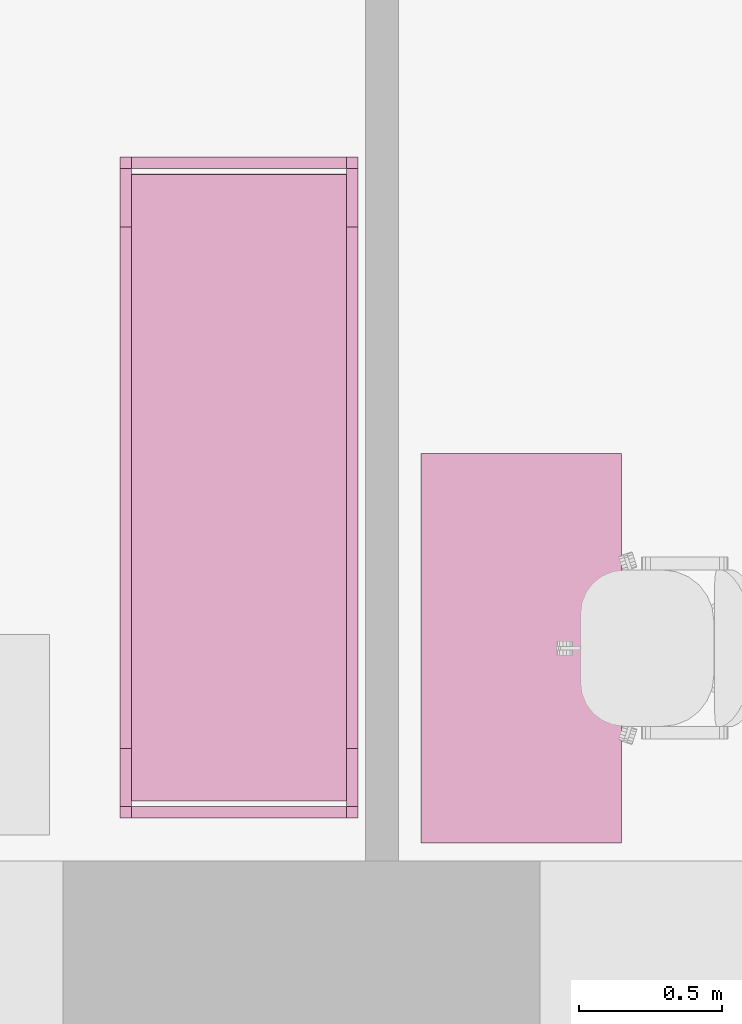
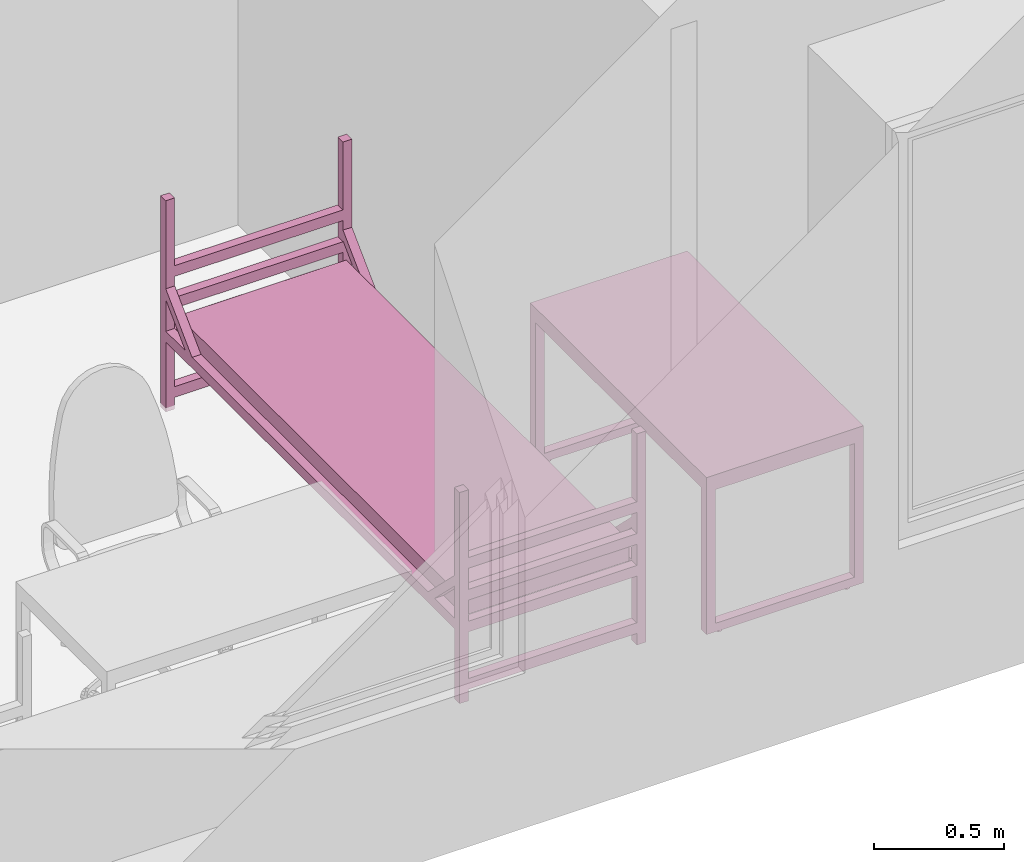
# One storey, part 34 of 48: 2 furnishings.
"""IFC2X3 building model written with IfcOpenShell, lengths in millimetres."""

from ifc_helpers import new_model, entity, si_unit, converted_unit, derived_unit, direction, frame, frame_2d, origin, place, context, subcontext, project, spatial, polyline, circle_curve, parameter, trimmed, segment, composite_curve, rectangle, outline, extrude, faceted_brep, source, transform, mapped, material, material_list, type_object, type_shapes, element, save


model = new_model("IFC2X3")

# Units and contexts
model_context = context("Model", 3, precision=0.01, world=origin(), true_north=direction((6.12303176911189e-17, 1.0)))
body_context = subcontext(model_context, "Body", "Model", "MODEL_VIEW")
ifc_project = project(units=[si_unit("LENGTHUNIT", "METRE", prefix="MILLI"), si_unit("AREAUNIT", "SQUARE_METRE"), si_unit("VOLUMEUNIT", "CUBIC_METRE"), converted_unit("PLANEANGLEUNIT", "DEGREE", entity("IfcRatioMeasure", 0.0174532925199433), si_unit("PLANEANGLEUNIT", "RADIAN"), dimensions=[0, 0, 0, 0, 0, 0, 0]), si_unit("MASSUNIT", "GRAM", prefix="KILO"), derived_unit("MASSDENSITYUNIT", [(si_unit("MASSUNIT", "GRAM", prefix="KILO"), 1), (si_unit("LENGTHUNIT", "METRE"), -3)]), si_unit("TIMEUNIT", "SECOND"), si_unit("FREQUENCYUNIT", "HERTZ"), si_unit("THERMODYNAMICTEMPERATUREUNIT", "DEGREE_CELSIUS"), derived_unit("THERMALTRANSMITTANCEUNIT", [(si_unit("MASSUNIT", "GRAM", prefix="KILO"), 1), (si_unit("THERMODYNAMICTEMPERATUREUNIT", "KELVIN"), -1), (si_unit("TIMEUNIT", "SECOND"), -3)]), derived_unit("VOLUMETRICFLOWRATEUNIT", [(si_unit("LENGTHUNIT", "METRE"), 3), (si_unit("TIMEUNIT", "SECOND"), -1)]), si_unit("ELECTRICCURRENTUNIT", "AMPERE"), si_unit("ELECTRICVOLTAGEUNIT", "VOLT"), si_unit("POWERUNIT", "WATT"), si_unit("FORCEUNIT", "NEWTON", prefix="KILO"), si_unit("ILLUMINANCEUNIT", "LUX"), si_unit("LUMINOUSFLUXUNIT", "LUMEN"), si_unit("LUMINOUSINTENSITYUNIT", "CANDELA"), derived_unit("USERDEFINED", [(si_unit("MASSUNIT", "GRAM", prefix="KILO"), -1), (si_unit("LENGTHUNIT", "METRE"), -2), (si_unit("TIMEUNIT", "SECOND"), 3), (si_unit("LUMINOUSFLUXUNIT", "LUMEN"), 1)]), derived_unit("LINEARVELOCITYUNIT", [(si_unit("LENGTHUNIT", "METRE"), 1), (si_unit("TIMEUNIT", "SECOND"), -1)]), si_unit("PRESSUREUNIT", "PASCAL"), derived_unit("USERDEFINED", [(si_unit("LENGTHUNIT", "METRE"), -2), (si_unit("MASSUNIT", "GRAM", prefix="KILO"), 1), (si_unit("TIMEUNIT", "SECOND"), -2)]), derived_unit("LINEARFORCEUNIT", [(si_unit("MASSUNIT", "GRAM", prefix="KILO"), 1), (si_unit("LENGTHUNIT", "METRE"), 1), (si_unit("TIMEUNIT", "SECOND"), -2), (si_unit("LENGTHUNIT", "METRE"), -1)]), derived_unit("PLANARFORCEUNIT", [(si_unit("MASSUNIT", "GRAM", prefix="KILO"), 1), (si_unit("LENGTHUNIT", "METRE"), 1), (si_unit("TIMEUNIT", "SECOND"), -2), (si_unit("LENGTHUNIT", "METRE"), -2)])], contexts=[model_context])

# Site, building, storey, space
site_placement = place(None, origin())
site = spatial("IfcSite", under=ifc_project, at=site_placement, Name="Default", CompositionType="ELEMENT")
building_placement = place(site_placement, origin())
building = spatial("IfcBuilding", under=site, at=building_placement, Name="SMA ARH", CompositionType="ELEMENT")
storey_placement = place(building_placement, frame((0.0, 0.0, 6600.0)))
storey = spatial("IfcBuildingStorey", under=building, at=storey_placement, Name="3 Korrus", CompositionType="ELEMENT", Elevation=6599.99999999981)
space_1_placement = place(storey_placement, origin())
space_1 = spatial("IfcSpace", under=storey, at=space_1_placement, Name="3-7", CompositionType="ELEMENT", InteriorOrExteriorSpace="INTERNAL")

# Furnishing
ifc_material_1 = material(Name="Madrats")
furniture_type_1 = type_object("IfcFurnitureType", Name="Kasarmu voodi ühekordne 2308x830:Kasarmu voodi ühekordne 2308x830", material=ifc_material_1)
shared_shape_1 = source(origin(), body_context, "Body", "SweptSolid", [
    extrude(rectangle(XDim=39.9999999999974, YDim=750.000000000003, at=frame_2d((-1.35003119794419e-13, -2.8421709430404e-14), x_axis=(1.0, 0.0))), frame((1.68638457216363, -1226.7969571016, 55.0), z_axis=(0.0, 0.0, 1.0), x_axis=(0.0, -1.0, 0.0)), (0.0, 0.0, 1.0), 49.9999999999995),
    extrude(rectangle(XDim=39.9999999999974, YDim=750.000000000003, at=frame_2d((-1.35003119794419e-13, -2.8421709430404e-14), x_axis=(1.0, 0.0))), frame((1.68638457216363, -1226.7969571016, 325.0), z_axis=(0.0, 0.0, 1.0), x_axis=(0.0, -1.0, 0.0)), (0.0, 0.0, 1.0), 49.9999999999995),
    extrude(rectangle(XDim=39.9999999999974, YDim=750.000000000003, at=frame_2d((-1.35003119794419e-13, -2.8421709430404e-14), x_axis=(1.0, 0.0))), frame((1.68638457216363, -1226.7969571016, 475.0), z_axis=(0.0, 0.0, 1.0), x_axis=(0.0, -1.0, 0.0)), (0.0, 0.0, 1.0), 49.9999999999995),
    extrude(rectangle(XDim=39.9999999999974, YDim=750.000000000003, at=frame_2d((-1.35003119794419e-13, -2.8421709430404e-14), x_axis=(1.0, 0.0))), frame((1.68638457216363, -1226.7969571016, 625.0), z_axis=(0.0, 0.0, 1.0), x_axis=(0.0, -1.0, 0.0)), (0.0, 0.0, 1.0), 50.0000000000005),
    extrude(rectangle(XDim=39.9999999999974, YDim=750.000000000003, at=frame_2d((1.35003119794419e-13, -2.8421709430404e-14), x_axis=(1.0, 0.0))), frame((1.68638457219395, 1041.2030428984, 55.0), z_axis=(0.0, 0.0, 1.0), x_axis=(0.0, -1.0, 0.0)), (0.0, 0.0, 1.0), 50.0000000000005),
    extrude(rectangle(XDim=39.9999999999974, YDim=750.000000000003, at=frame_2d((1.35003119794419e-13, -2.8421709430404e-14), x_axis=(1.0, 0.0))), frame((1.68638457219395, 1041.2030428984, 325.0), z_axis=(0.0, 0.0, 1.0), x_axis=(0.0, -1.0, 0.0)), (0.0, 0.0, 1.0), 50.0000000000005),
    extrude(rectangle(XDim=39.9999999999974, YDim=750.000000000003, at=frame_2d((1.35003119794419e-13, -2.8421709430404e-14), x_axis=(1.0, 0.0))), frame((1.68638457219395, 1041.2030428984, 475.0), z_axis=(0.0, 0.0, 1.0), x_axis=(0.0, -1.0, 0.0)), (0.0, 0.0, 1.0), 50.0000000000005),
    extrude(rectangle(XDim=39.9999999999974, YDim=750.000000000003, at=frame_2d((1.35003119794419e-13, -2.8421709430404e-14), x_axis=(1.0, 0.0))), frame((1.68638457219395, 1041.2030428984, 625.0), z_axis=(0.0, 0.0, 1.0), x_axis=(0.0, -1.0, 0.0)), (0.0, 0.0, 1.0), 49.9999999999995),
    extrude(outline(composite_curve([segment(trimmed(circle_curve(frame_2d((1085.0, -40.0), x_axis=(1.0, 0.0)), 10.0), [parameter(270.0)], [parameter(0.0)], True, "PARAMETER"), True, "CONTINUOUS"), segment(polyline([(1095.0, -40.0), (1095.0, 40.0)]), True, "CONTINUOUS"), segment(trimmed(circle_curve(frame_2d((1085.0, 40.0), x_axis=(1.0, 0.0)), 10.0), [parameter(0.0)], [parameter(90.0000000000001)], True, "PARAMETER"), True, "CONTINUOUS"), segment(polyline([(1085.0, 50.0), (-1085.0, 50.0)]), True, "CONTINUOUS"), segment(trimmed(circle_curve(frame_2d((-1085.0, 40.0), x_axis=(1.0, 0.0)), 10.0), [parameter(90.0000000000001)], [parameter(180.0)], True, "PARAMETER"), True, "CONTINUOUS"), segment(polyline([(-1095.0, 40.0), (-1095.0, -40.0)]), True, "CONTINUOUS"), segment(trimmed(circle_curve(frame_2d((-1085.0, -40.0), x_axis=(1.0, 0.0)), 10.0), [parameter(180.0)], [parameter(270.0)], True, "PARAMETER"), True, "CONTINUOUS"), segment(polyline([(-1085.0, -50.0), (1085.0, -50.0)]), True, "CONTINUOUS")], self_intersect=False)), frame((-373.313615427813, -92.7969571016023, 405.0), z_axis=(1.0, 0.0, 0.0), x_axis=(0.0, -1.0, 0.0)), (0.0, 0.0, 1.0), 750.000000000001),
    extrude(outline(polyline([(-1114.0, -100.0), (1114.0, -100.0), (1114.0, -50.0), (961.59199141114, -50.0), (1114.0, 100.0), (1114.0, 150.0), (910.789321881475, -50.0), (-910.789321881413, -50.0), (-1114.0, 150.0), (-1114.0, 100.0), (-961.591991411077, -50.0), (-1114.0, -50.0), (-1114.0, -100.0)])), frame((-413.313615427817, -92.7969571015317, 430.0), z_axis=(1.0, 0.0, 0.0), x_axis=(0.0, 1.0, 0.0)), (0.0, 0.0, 1.0), 39.9999999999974),
    extrude(outline(polyline([(-1114.0, -100.0), (1114.0, -100.0), (1114.0, -50.0), (961.591991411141, -50.0), (1114.0, 100.0), (1114.0, 150.0), (910.789321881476, -50.0), (-910.789321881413, -50.0), (-1114.0, 150.0), (-1114.0, 100.0), (-961.591991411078, -50.0), (-1114.0, -50.0), (-1114.0, -100.0)])), frame((376.686384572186, -92.796957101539, 430.0), z_axis=(1.0, 0.0, 0.0), x_axis=(0.0, 1.0, 0.0)), (0.0, 0.0, 1.0), 39.9999999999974),
    extrude(rectangle(XDim=39.9999999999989, YDim=39.9999999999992, at=frame_2d((-6.75015598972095e-14, 0.0), x_axis=(1.0, 0.0))), frame((396.686384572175, -1226.79695710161, 0.0), z_axis=(0.0, 0.0, 1.0), x_axis=(0.0, 1.0, 0.0)), (0.0, 0.0, 1.0), 995.0),
    extrude(rectangle(XDim=39.9999999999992, YDim=39.9999999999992, at=frame_2d((-1.35003119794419e-13, 0.0), x_axis=(1.0, 0.0))), frame((396.686384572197, 1041.20304289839, 0.0), z_axis=(0.0, 0.0, 1.0), x_axis=(0.0, 1.0, 0.0)), (0.0, 0.0, 1.0), 995.0),
    extrude(rectangle(XDim=40.0000000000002, YDim=39.9999999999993, at=frame_2d((-1.35003119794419e-13, 0.0), x_axis=(1.0, 0.0))), frame((-393.313615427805, 1041.2030428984, 0.0), z_axis=(0.0, 0.0, 1.0), x_axis=(0.0, 1.0, 0.0)), (0.0, 0.0, 1.0), 995.0),
    extrude(rectangle(XDim=39.9999999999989, YDim=39.9999999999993, at=frame_2d((-6.75015598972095e-14, 0.0), x_axis=(1.0, 0.0))), frame((-393.313615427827, -1226.7969571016, 0.0), z_axis=(0.0, 0.0, 1.0), x_axis=(0.0, 1.0, 0.0)), (0.0, 0.0, 1.0), 995.0),
])
type_shapes(furniture_type_1, [shared_shape_1])
furnishing_1_placement = place(space_1_placement, frame((26577.3136154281, 1396.79695710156, 0.0)))
element("IfcFurnishingElement", 1, at=furnishing_1_placement, inside=space_1, type_object=furniture_type_1, material=ifc_material_1, Name="Kasarmu voodi ühekordne 2308x830:Kasarmu voodi ühekordne 2308x830", ObjectType="Kasarmu voodi ühekordne 2308x830:Kasarmu voodi ühekordne 2308x830", context=body_context, shape_type="MappedRepresentation", body=[
    mapped(shared_shape_1, transform((0.0, 0.0, 0.0), scale=1.0)),
])

# Space
space_2_placement = place(storey_placement, origin())
space_2 = spatial("IfcSpace", under=storey, at=space_2_placement, Name="3-6", CompositionType="ELEMENT", InteriorOrExteriorSpace="INTERNAL")

# Furnishing
ifc_material_2 = material(Name="<Unnamed>")
ifc_material_list = material_list([ifc_material_2, ifc_material_2])
furniture_type_2 = type_object("IfcFurnitureType", Name="kirjutuslaud 1360x700mm:kirjutuslaud 1360x700mm", material=ifc_material_list)
shared_shape_2 = source(origin(), body_context, "Body", "Brep", [
    faceted_brep([(680.0, -350.0, 720.0), (680.0, 350.0, 720.0), (680.0, 350.0, 750.0), (680.0, -350.0, 750.0), (-680.0, -350.0, 720.0), (-680.0, -350.0, 750.0), (-680.0, 350.0, 750.0), (-680.0, 350.0, 720.0)], [[[0, 1, 2, 3]], [[4, 5, 6, 7]], [[1, 0, 4, 7]], [[2, 1, 7, 6]], [[3, 2, 6, 5]], [[0, 3, 5, 4]]]),
    faceted_brep([(-640.0, -310.0, 680.0), (-640.0, 310.0, 680.0), (-640.0, 310.0, 720.0), (-640.0, -310.0, 720.0), (-680.0, -350.0, 720.0), (-680.0, 350.0, 720.0), (-680.0, 350.0, 10.0), (-680.0, -350.0, 10.0), (-680.0, 310.0, 680.0), (-680.0, -310.0, 680.0), (-680.0, -310.0, 50.0), (-680.0, 310.0, 50.0), (-640.0, -350.0, 10.0), (-640.0, -350.0, 680.0), (640.0, -350.0, 680.0), (640.0, -350.0, 10.0), (680.0, -350.0, 10.0), (680.0, -350.0, 720.0), (-640.0, 350.0, 10.0), (680.0, 350.0, 720.0), (680.0, 350.0, 10.0), (640.0, 350.0, 10.0), (640.0, 350.0, 680.0), (-640.0, 350.0, 680.0), (640.0, 310.0, 720.0), (640.0, -310.0, 720.0), (-640.0, 310.0, 50.0), (-640.0, -310.0, 50.0), (640.0, -310.0, 680.0), (640.0, 310.0, 680.0), (680.0, 310.0, 680.0), (680.0, 310.0, 50.0), (680.0, -310.0, 50.0), (680.0, -310.0, 680.0), (640.0, -310.0, 50.0), (640.0, 310.0, 50.0)], [[[0, 1, 2, 3]], [[4, 5, 6, 7], [8, 9, 10, 11]], [[4, 7, 12, 13, 14, 15, 16, 17]], [[18, 12, 7, 6]], [[6, 5, 19, 20, 21, 22, 23, 18]], [[19, 5, 4, 17], [2, 24, 25, 3]], [[26, 1, 8, 11]], [[27, 26, 11, 10]], [[0, 27, 10, 9]], [[1, 0, 9, 8]], [[14, 13, 0, 28]], [[24, 2, 1, 29]], [[3, 25, 28, 0]], [[17, 16, 20, 19], [30, 31, 32, 33]], [[21, 15, 14, 28, 34, 35, 29, 22]], [[20, 16, 15, 21]], [[31, 30, 29, 35]], [[32, 31, 35, 34]], [[33, 32, 34, 28]], [[30, 33, 28, 29]], [[29, 28, 25, 24]], [[29, 1, 23, 22]], [[12, 18, 23, 1, 26, 27, 0, 13]]]),
    faceted_brep([(-663.729456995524, -270.466136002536, 0.0), (-659.847171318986, -269.955023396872, 0.0), (-655.964885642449, -270.466136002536, 0.0), (-652.347171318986, -271.964642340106, 0.0), (-649.240569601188, -274.348421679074, 0.0), (-646.85679026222, -277.455023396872, 0.0), (-645.35828392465, -281.072737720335, 0.0), (-644.847171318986, -284.955023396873, 0.0), (-645.35828392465, -288.83730907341, 0.0), (-646.85679026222, -292.455023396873, 0.0), (-649.240569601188, -295.561625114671, 0.0), (-652.347171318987, -297.945404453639, 0.0), (-655.964885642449, -299.443910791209, 0.0), (-659.847171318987, -299.955023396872, 0.0), (-663.729456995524, -299.443910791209, 0.0), (-667.347171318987, -297.945404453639, 0.0), (-670.453773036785, -295.561625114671, 0.0), (-672.837552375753, -292.455023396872, 0.0), (-674.336058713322, -288.83730907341, 0.0), (-674.847171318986, -284.955023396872, 0.0), (-674.336058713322, -281.072737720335, 0.0), (-672.837552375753, -277.455023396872, 0.0), (-670.453773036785, -274.348421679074, 0.0), (-667.347171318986, -271.964642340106, 0.0), (-655.964885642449, -299.443910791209, 10.0), (-652.347171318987, -297.945404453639, 10.0), (-649.240569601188, -295.561625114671, 10.0), (-646.85679026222, -292.455023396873, 10.0), (-645.35828392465, -288.83730907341, 10.0), (-644.847171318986, -284.955023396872, 10.0), (-645.35828392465, -281.072737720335, 10.0), (-646.85679026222, -277.455023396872, 10.0), (-649.240569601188, -274.348421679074, 10.0), (-652.347171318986, -271.964642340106, 10.0), (-655.964885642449, -270.466136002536, 10.0), (-659.847171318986, -269.955023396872, 10.0), (-663.729456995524, -270.466136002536, 10.0), (-667.347171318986, -271.964642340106, 10.0), (-670.453773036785, -274.348421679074, 10.0), (-672.837552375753, -277.455023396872, 10.0), (-674.336058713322, -281.072737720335, 10.0), (-674.847171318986, -284.955023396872, 10.0), (-674.336058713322, -288.83730907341, 10.0), (-672.837552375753, -292.455023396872, 10.0), (-670.453773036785, -295.561625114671, 10.0), (-667.347171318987, -297.945404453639, 10.0), (-663.729456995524, -299.443910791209, 10.0), (-659.847171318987, -299.955023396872, 10.0)], [[[0, 1, 2, 3, 4, 5, 6, 7, 8, 9, 10, 11, 12, 13, 14, 15, 16, 17, 18, 19, 20, 21, 22, 23]], [[24, 25, 26, 27, 28, 29, 30, 31, 32, 33, 34, 35, 36, 37, 38, 39, 40, 41, 42, 43, 44, 45, 46, 47]], [[18, 42, 41, 19]], [[17, 43, 42, 18]], [[45, 44, 16, 15]], [[17, 16, 44, 43]], [[46, 45, 15, 14]], [[47, 46, 14, 13]], [[12, 24, 47, 13]], [[11, 25, 24, 12]], [[27, 26, 10, 9]], [[11, 10, 26, 25]], [[28, 27, 9, 8]], [[29, 28, 8, 7]], [[6, 30, 29, 7]], [[5, 31, 30, 6]], [[33, 32, 4, 3]], [[5, 4, 32, 31]], [[34, 33, 3, 2]], [[35, 34, 2, 1]], [[0, 36, 35, 1]], [[23, 37, 36, 0]], [[39, 38, 22, 21]], [[23, 22, 38, 37]], [[40, 39, 21, 20]], [[41, 40, 20, 19]]]),
    faceted_brep([(-655.964885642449, 270.466136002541, 10.0), (-652.347171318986, 271.964642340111, 10.0), (-649.240569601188, 274.348421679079, 10.0), (-646.85679026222, 277.455023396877, 10.0), (-645.35828392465, 281.07273772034, 10.0), (-644.847171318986, 284.955023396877, 10.0), (-645.35828392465, 288.837309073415, 10.0), (-646.85679026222, 292.455023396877, 10.0), (-649.240569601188, 295.561625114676, 10.0), (-652.347171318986, 297.945404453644, 10.0), (-655.964885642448, 299.443910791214, 10.0), (-659.847171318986, 299.955023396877, 10.0), (-663.729456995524, 299.443910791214, 10.0), (-667.347171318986, 297.945404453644, 10.0), (-670.453773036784, 295.561625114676, 10.0), (-672.837552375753, 292.455023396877, 10.0), (-674.336058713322, 288.837309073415, 10.0), (-674.847171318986, 284.955023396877, 10.0), (-674.336058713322, 281.07273772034, 10.0), (-672.837552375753, 277.455023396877, 10.0), (-670.453773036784, 274.348421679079, 10.0), (-667.347171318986, 271.964642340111, 10.0), (-663.729456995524, 270.466136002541, 10.0), (-659.847171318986, 269.955023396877, 10.0), (-655.964885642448, 299.443910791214, 0.0), (-652.347171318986, 297.945404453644, 0.0), (-649.240569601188, 295.561625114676, 0.0), (-646.85679026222, 292.455023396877, 0.0), (-645.35828392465, 288.837309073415, 0.0), (-644.847171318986, 284.955023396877, 0.0), (-645.35828392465, 281.07273772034, 0.0), (-646.85679026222, 277.455023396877, 0.0), (-649.240569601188, 274.348421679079, 0.0), (-652.347171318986, 271.964642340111, 0.0), (-655.964885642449, 270.466136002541, 0.0), (-659.847171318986, 269.955023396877, 0.0), (-663.729456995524, 270.466136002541, 0.0), (-667.347171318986, 271.964642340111, 0.0), (-670.453773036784, 274.348421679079, 0.0), (-672.837552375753, 277.455023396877, 0.0), (-674.336058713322, 281.07273772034, 0.0), (-674.847171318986, 284.955023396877, 0.0), (-674.336058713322, 288.837309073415, 0.0), (-672.837552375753, 292.455023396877, 0.0), (-670.453773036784, 295.561625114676, 0.0), (-667.347171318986, 297.945404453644, 0.0), (-663.729456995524, 299.443910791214, 0.0), (-659.847171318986, 299.955023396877, 0.0)], [[[0, 1, 2, 3, 4, 5, 6, 7, 8, 9, 10, 11, 12, 13, 14, 15, 16, 17, 18, 19, 20, 21, 22, 23]], [[24, 25, 26, 27, 28, 29, 30, 31, 32, 33, 34, 35, 36, 37, 38, 39, 40, 41, 42, 43, 44, 45, 46, 47]], [[40, 18, 17, 41]], [[39, 19, 18, 40]], [[21, 20, 38, 37]], [[39, 38, 20, 19]], [[22, 21, 37, 36]], [[23, 22, 36, 35]], [[34, 0, 23, 35]], [[33, 1, 0, 34]], [[3, 2, 32, 31]], [[33, 32, 2, 1]], [[4, 3, 31, 30]], [[5, 4, 30, 29]], [[28, 6, 5, 29]], [[27, 7, 6, 28]], [[9, 8, 26, 25]], [[27, 26, 8, 7]], [[10, 9, 25, 24]], [[11, 10, 24, 47]], [[46, 12, 11, 47]], [[45, 13, 12, 46]], [[15, 14, 44, 43]], [[45, 44, 14, 13]], [[16, 15, 43, 42]], [[17, 16, 42, 41]]]),
    faceted_brep([(656.270543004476, -270.466136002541, 0.0), (660.152828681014, -269.955023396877, 0.0), (664.035114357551, -270.466136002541, 0.0), (667.652828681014, -271.96464234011, 0.0), (670.759430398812, -274.348421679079, 0.0), (673.14320973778, -277.455023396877, 0.0), (674.64171607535, -281.072737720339, 0.0), (675.152828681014, -284.955023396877, 0.0), (674.64171607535, -288.837309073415, 0.0), (673.14320973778, -292.455023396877, 0.0), (670.759430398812, -295.561625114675, 0.0), (667.652828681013, -297.945404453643, 0.0), (664.035114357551, -299.443910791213, 0.0), (660.152828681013, -299.955023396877, 0.0), (656.270543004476, -299.443910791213, 0.0), (652.652828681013, -297.945404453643, 0.0), (649.546226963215, -295.561625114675, 0.0), (647.162447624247, -292.455023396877, 0.0), (645.663941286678, -288.837309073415, 0.0), (645.152828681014, -284.955023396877, 0.0), (645.663941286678, -281.072737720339, 0.0), (647.162447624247, -277.455023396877, 0.0), (649.546226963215, -274.348421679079, 0.0), (652.652828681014, -271.96464234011, 0.0), (664.035114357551, -299.443910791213, 10.0), (667.652828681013, -297.945404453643, 10.0), (670.759430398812, -295.561625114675, 10.0), (673.14320973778, -292.455023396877, 10.0), (674.64171607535, -288.837309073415, 10.0), (675.152828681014, -284.955023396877, 10.0), (674.64171607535, -281.072737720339, 10.0), (673.14320973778, -277.455023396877, 10.0), (670.759430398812, -274.348421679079, 10.0), (667.652828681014, -271.96464234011, 10.0), (664.035114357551, -270.466136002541, 10.0), (660.152828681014, -269.955023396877, 10.0), (656.270543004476, -270.466136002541, 10.0), (652.652828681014, -271.96464234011, 10.0), (649.546226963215, -274.348421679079, 10.0), (647.162447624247, -277.455023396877, 10.0), (645.663941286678, -281.072737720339, 10.0), (645.152828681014, -284.955023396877, 10.0), (645.663941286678, -288.837309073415, 10.0), (647.162447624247, -292.455023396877, 10.0), (649.546226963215, -295.561625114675, 10.0), (652.652828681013, -297.945404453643, 10.0), (656.270543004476, -299.443910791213, 10.0), (660.152828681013, -299.955023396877, 10.0)], [[[0, 1, 2, 3, 4, 5, 6, 7, 8, 9, 10, 11, 12, 13, 14, 15, 16, 17, 18, 19, 20, 21, 22, 23]], [[24, 25, 26, 27, 28, 29, 30, 31, 32, 33, 34, 35, 36, 37, 38, 39, 40, 41, 42, 43, 44, 45, 46, 47]], [[18, 42, 41, 19]], [[17, 43, 42, 18]], [[45, 44, 16, 15]], [[17, 16, 44, 43]], [[46, 45, 15, 14]], [[47, 46, 14, 13]], [[12, 24, 47, 13]], [[11, 25, 24, 12]], [[27, 26, 10, 9]], [[11, 10, 26, 25]], [[28, 27, 9, 8]], [[29, 28, 8, 7]], [[6, 30, 29, 7]], [[5, 31, 30, 6]], [[33, 32, 4, 3]], [[5, 4, 32, 31]], [[34, 33, 3, 2]], [[35, 34, 2, 1]], [[0, 36, 35, 1]], [[23, 37, 36, 0]], [[39, 38, 22, 21]], [[23, 22, 38, 37]], [[40, 39, 21, 20]], [[41, 40, 20, 19]]]),
    faceted_brep([(664.035114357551, 270.466136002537, 10.0), (667.652828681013, 271.964642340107, 10.0), (670.759430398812, 274.348421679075, 10.0), (673.14320973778, 277.455023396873, 10.0), (674.64171607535, 281.072737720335, 10.0), (675.152828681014, 284.955023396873, 10.0), (674.64171607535, 288.837309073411, 10.0), (673.14320973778, 292.455023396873, 10.0), (670.759430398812, 295.561625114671, 10.0), (667.652828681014, 297.94540445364, 10.0), (664.035114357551, 299.443910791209, 10.0), (660.152828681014, 299.955023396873, 10.0), (656.270543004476, 299.443910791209, 10.0), (652.652828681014, 297.94540445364, 10.0), (649.546226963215, 295.561625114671, 10.0), (647.162447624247, 292.455023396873, 10.0), (645.663941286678, 288.837309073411, 10.0), (645.152828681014, 284.955023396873, 10.0), (645.663941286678, 281.072737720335, 10.0), (647.162447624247, 277.455023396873, 10.0), (649.546226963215, 274.348421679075, 10.0), (652.652828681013, 271.964642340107, 10.0), (656.270543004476, 270.466136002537, 10.0), (660.152828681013, 269.955023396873, 10.0), (664.035114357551, 299.443910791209, 0.0), (667.652828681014, 297.94540445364, 0.0), (670.759430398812, 295.561625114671, 0.0), (673.14320973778, 292.455023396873, 0.0), (674.64171607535, 288.837309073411, 0.0), (675.152828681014, 284.955023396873, 0.0), (674.64171607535, 281.072737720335, 0.0), (673.14320973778, 277.455023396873, 0.0), (670.759430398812, 274.348421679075, 0.0), (667.652828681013, 271.964642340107, 0.0), (664.035114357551, 270.466136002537, 0.0), (660.152828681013, 269.955023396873, 0.0), (656.270543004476, 270.466136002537, 0.0), (652.652828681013, 271.964642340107, 0.0), (649.546226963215, 274.348421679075, 0.0), (647.162447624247, 277.455023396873, 0.0), (645.663941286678, 281.072737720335, 0.0), (645.152828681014, 284.955023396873, 0.0), (645.663941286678, 288.837309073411, 0.0), (647.162447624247, 292.455023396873, 0.0), (649.546226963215, 295.561625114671, 0.0), (652.652828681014, 297.94540445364, 0.0), (656.270543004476, 299.443910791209, 0.0), (660.152828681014, 299.955023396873, 0.0)], [[[0, 1, 2, 3, 4, 5, 6, 7, 8, 9, 10, 11, 12, 13, 14, 15, 16, 17, 18, 19, 20, 21, 22, 23]], [[24, 25, 26, 27, 28, 29, 30, 31, 32, 33, 34, 35, 36, 37, 38, 39, 40, 41, 42, 43, 44, 45, 46, 47]], [[40, 18, 17, 41]], [[39, 19, 18, 40]], [[21, 20, 38, 37]], [[39, 38, 20, 19]], [[22, 21, 37, 36]], [[23, 22, 36, 35]], [[34, 0, 23, 35]], [[33, 1, 0, 34]], [[3, 2, 32, 31]], [[33, 32, 2, 1]], [[4, 3, 31, 30]], [[5, 4, 30, 29]], [[28, 6, 5, 29]], [[27, 7, 6, 28]], [[9, 8, 26, 25]], [[27, 26, 8, 7]], [[10, 9, 25, 24]], [[11, 10, 24, 47]], [[46, 12, 11, 47]], [[45, 13, 12, 46]], [[15, 14, 44, 43]], [[45, 44, 14, 13]], [[16, 15, 43, 42]], [[17, 16, 42, 41]]]),
])
type_shapes(furniture_type_2, [shared_shape_2])
furnishing_2_placement = place(space_2_placement, frame((27564.0449999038, 743.180198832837, 0.0), z_axis=(0.0, 0.0, 1.0), x_axis=(0.0, -1.0, 0.0)))
element("IfcFurnishingElement", 2, at=furnishing_2_placement, inside=space_2, type_object=furniture_type_2, Name="kirjutuslaud 1360x700mm:kirjutuslaud 1360x700mm", ObjectType="kirjutuslaud 1360x700mm:kirjutuslaud 1360x700mm", context=body_context, shape_type="MappedRepresentation", body=[
    mapped(shared_shape_2, transform((0.0, 0.0, 0.0), scale=1.0)),
])

save(model, "model.ifc")
